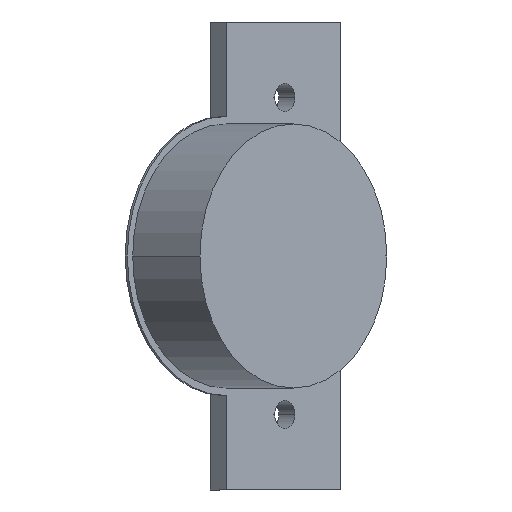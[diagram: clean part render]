
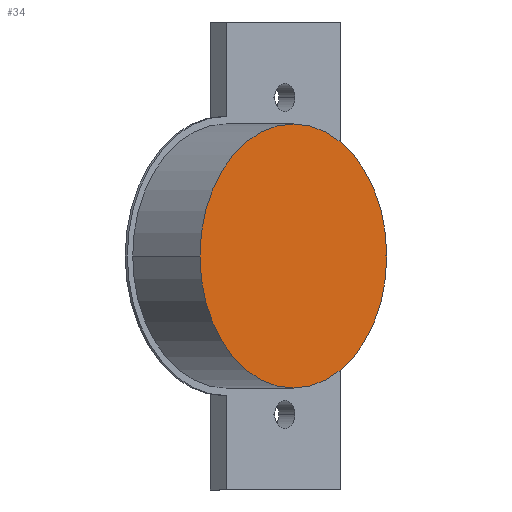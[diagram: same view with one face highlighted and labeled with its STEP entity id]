
A CAD part, front view. The second image highlights one B-rep face of the part: STEP entity #34.
In plain terms, the highlighted planar face has unit normal (0.707, -0.707, 0).
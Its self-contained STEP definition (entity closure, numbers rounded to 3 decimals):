
#34 = ADVANCED_FACE ( 'NONE', ( #1261 ), #216, .T. ) ;
#86 = VERTEX_POINT ( 'NONE', #356 ) ;
#93 = VERTEX_POINT ( 'NONE', #363 ) ;
#216 = PLANE ( 'NONE',  #829 ) ;
#219 = CARTESIAN_POINT ( 'NONE',  ( 18.46, -8.91, 0. ) ) ;
#225 = DIRECTION ( 'NONE',  ( 0.707, -0.707, 0. ) ) ;
#226 = DIRECTION ( 'NONE',  ( 0.707, 0.707, 0. ) ) ;
#356 = CARTESIAN_POINT ( 'NONE',  ( 6.085, -21.284, 0. ) ) ;
#363 = CARTESIAN_POINT ( 'NONE',  ( 30.834, 3.465, 0. ) ) ;
#460 = CARTESIAN_POINT ( 'NONE',  ( 18.46, -8.91, 0. ) ) ;
#461 = DIRECTION ( 'NONE',  ( 0.707, -0.707, 0. ) ) ;
#462 = DIRECTION ( 'NONE',  ( 0.707, 0.707, 0. ) ) ;
#647 = CARTESIAN_POINT ( 'NONE',  ( 18.46, -8.91, 0. ) ) ;
#649 = DIRECTION ( 'NONE',  ( 0.707, -0.707, 0. ) ) ;
#650 = DIRECTION ( 'NONE',  ( 0.707, 0.707, 0. ) ) ;
#731 = EDGE_CURVE ( 'NONE', #86, #93, #1335, .T. ) ;
#829 = AXIS2_PLACEMENT_3D ( 'NONE', #219, #225, #226 ) ;
#953 = EDGE_CURVE ( 'NONE', #93, #86, #1517, .T. ) ;
#1052 = ORIENTED_EDGE ( 'NONE', *, *, #953, .T. ) ;
#1053 = ORIENTED_EDGE ( 'NONE', *, *, #731, .T. ) ;
#1204 = EDGE_LOOP ( 'NONE', ( #1053, #1052 ) ) ;
#1261 = FACE_OUTER_BOUND ( 'NONE', #1204, .T. ) ;
#1335 = CIRCLE ( 'NONE', #1567, 17.5 ) ;
#1517 = CIRCLE ( 'NONE', #1586, 17.5 ) ;
#1567 = AXIS2_PLACEMENT_3D ( 'NONE', #460, #461, #462 ) ;
#1586 = AXIS2_PLACEMENT_3D ( 'NONE', #647, #649, #650 ) ;
